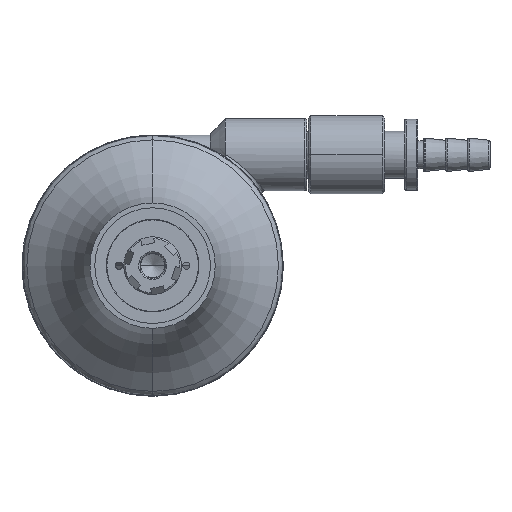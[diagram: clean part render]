
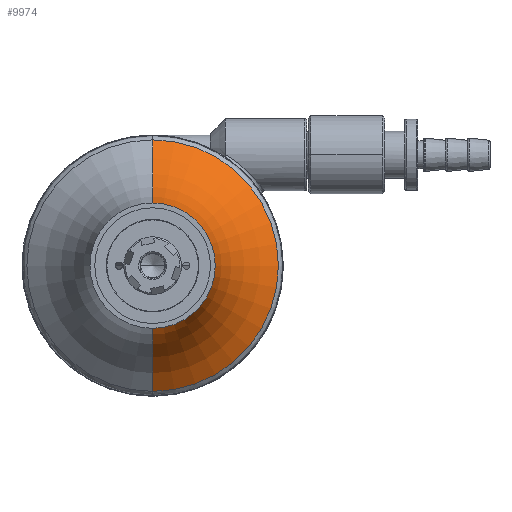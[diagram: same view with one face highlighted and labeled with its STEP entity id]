
A CAD part, left-side view. The second image highlights one B-rep face of the part: STEP entity #9974.
In plain terms, the highlighted toroidal (fillet/blend) face has major radius 42.583 mm and minor radius 30.148 mm.
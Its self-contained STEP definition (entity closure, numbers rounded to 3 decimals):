
#9836 = ORIENTED_EDGE ( 'NONE', *, *, #9855, .F. ) ;
#9837 = VERTEX_POINT ( 'NONE', #20984 ) ;
#9840 = EDGE_CURVE ( 'NONE', #9903, #9841, #20987, .T. ) ;
#9841 = VERTEX_POINT ( 'NONE', #21055 ) ;
#9849 = ORIENTED_EDGE ( 'NONE', *, *, #9850, .F. ) ;
#9850 = EDGE_CURVE ( 'NONE', #9934, #9837, #21041, .T. ) ;
#9855 = EDGE_CURVE ( 'NONE', #9837, #9841, #21031, .T. ) ;
#9903 = VERTEX_POINT ( 'NONE', #21505 ) ;
#9905 = EDGE_CURVE ( 'NONE', #9934, #9903, #21504, .T. ) ;
#9934 = VERTEX_POINT ( 'NONE', #21613 ) ;
#9966 = ORIENTED_EDGE ( 'NONE', *, *, #9905, .T. ) ;
#9967 = ORIENTED_EDGE ( 'NONE', *, *, #9840, .T. ) ;
#9974 = ADVANCED_FACE ( 'NONE', ( #21380 ), #21379, .F. ) ;
#9975 = EDGE_LOOP ( 'NONE', ( #9966, #9967, #9836, #9849 ) ) ;
#20984 = CARTESIAN_POINT ( 'NONE',  ( 0., 0., -13. ) ) ;
#20985 = CARTESIAN_POINT ( 'NONE',  ( -5.808, 0., 42.583 ) ) ;
#20986 = AXIS2_PLACEMENT_3D ( 'NONE', #20985, #21057, #21056 ) ;
#20987 = CIRCLE ( 'NONE', #20986, 30.148 ) ;
#21027 = DIRECTION ( 'NONE',  ( 0., 0., -1. ) ) ;
#21028 = DIRECTION ( 'NONE',  ( -1., 0., 0. ) ) ;
#21029 = CARTESIAN_POINT ( 'NONE',  ( 0., 0., 0. ) ) ;
#21030 = AXIS2_PLACEMENT_3D ( 'NONE', #21029, #21028, #21027 ) ;
#21031 = CIRCLE ( 'NONE', #21030, 13. ) ;
#21037 = DIRECTION ( 'NONE',  ( 0., 0., -1. ) ) ;
#21038 = DIRECTION ( 'NONE',  ( 0., -1., 0. ) ) ;
#21039 = CARTESIAN_POINT ( 'NONE',  ( -5.808, 0., -42.583 ) ) ;
#21040 = AXIS2_PLACEMENT_3D ( 'NONE', #21039, #21038, #21037 ) ;
#21041 = CIRCLE ( 'NONE', #21040, 30.148 ) ;
#21055 = CARTESIAN_POINT ( 'NONE',  ( 0., 0., 13. ) ) ;
#21056 = DIRECTION ( 'NONE',  ( 0., 0., 1. ) ) ;
#21057 = DIRECTION ( 'NONE',  ( 0., 1., 0. ) ) ;
#21374 = DIRECTION ( 'NONE',  ( 0., 0., -1. ) ) ;
#21375 = DIRECTION ( 'NONE',  ( 1., 0., 0. ) ) ;
#21376 = CARTESIAN_POINT ( 'NONE',  ( -5.808, 0., 0. ) ) ;
#21377 = AXIS2_PLACEMENT_3D ( 'NONE', #21376, #21375, #21374 ) ;
#21379 = TOROIDAL_SURFACE ( 'NONE', #21377, 42.583, 30.148 ) ;
#21380 = FACE_OUTER_BOUND ( 'NONE', #9975, .T. ) ;
#21504 = CIRCLE ( 'NONE', #21621, 26.094 ) ;
#21505 = CARTESIAN_POINT ( 'NONE',  ( 19.431, 0., 26.094 ) ) ;
#21613 = CARTESIAN_POINT ( 'NONE',  ( 19.431, 0., -26.094 ) ) ;
#21618 = DIRECTION ( 'NONE',  ( 0., 0., 1. ) ) ;
#21619 = DIRECTION ( 'NONE',  ( -1., 0., 0. ) ) ;
#21620 = CARTESIAN_POINT ( 'NONE',  ( 19.431, 0., 0. ) ) ;
#21621 = AXIS2_PLACEMENT_3D ( 'NONE', #21620, #21619, #21618 ) ;
